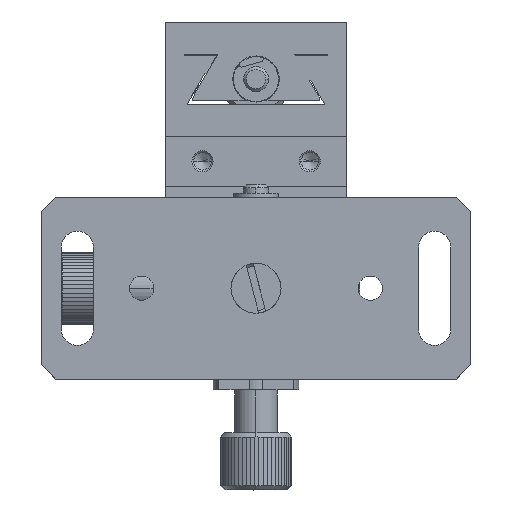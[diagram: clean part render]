
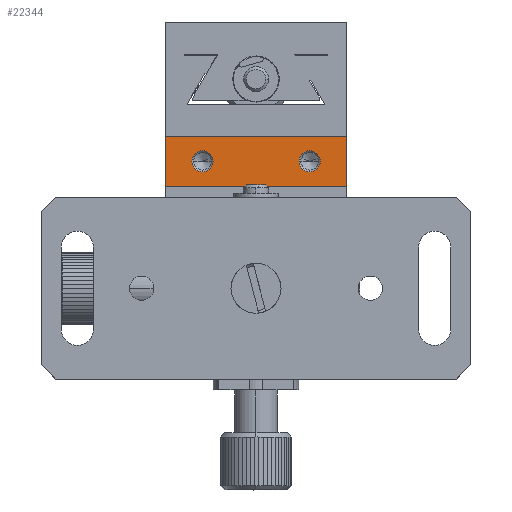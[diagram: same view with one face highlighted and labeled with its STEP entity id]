
A CAD part, top view. The second image highlights one B-rep face of the part: STEP entity #22344.
In plain terms, the highlighted planar face has unit normal (0, 0, 1).
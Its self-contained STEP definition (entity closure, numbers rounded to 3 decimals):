
#4886 = DIRECTION ( 'NONE',  ( 1., 0., 0. ) ) ;
#4888 = DIRECTION ( 'NONE',  ( 0., 0., -1. ) ) ;
#4890 = CARTESIAN_POINT ( 'NONE',  ( -4.01, 50.269, -13. ) ) ;
#4891 = AXIS2_PLACEMENT_3D ( 'NONE', #4890, #4888, #4886 ) ;
#4892 = CIRCLE ( 'NONE', #4891, 1.479 ) ;
#4940 = CARTESIAN_POINT ( 'NONE',  ( 16.19, 53.769, -13. ) ) ;
#5869 = CARTESIAN_POINT ( 'NONE',  ( -9.21, 53.769, -13. ) ) ;
#5873 = DIRECTION ( 'NONE',  ( -1., 0., 0. ) ) ;
#5874 = VECTOR ( 'NONE', #5873, 1000. ) ;
#5875 = CIRCLE ( 'NONE', #6015, 1.479 ) ;
#5876 = CARTESIAN_POINT ( 'NONE',  ( 16.19, 53.769, -13. ) ) ;
#5877 = LINE ( 'NONE', #5876, #5874 ) ;
#5956 = CARTESIAN_POINT ( 'NONE',  ( 9.511, 50.269, -13. ) ) ;
#6001 = CARTESIAN_POINT ( 'NONE',  ( 12.47, 50.269, -13. ) ) ;
#6012 = DIRECTION ( 'NONE',  ( 1., 0., 0. ) ) ;
#6013 = DIRECTION ( 'NONE',  ( 0., 0., -1. ) ) ;
#6014 = CARTESIAN_POINT ( 'NONE',  ( 10.99, 50.269, -13. ) ) ;
#6015 = AXIS2_PLACEMENT_3D ( 'NONE', #6014, #6013, #6012 ) ;
#6136 = DIRECTION ( 'NONE',  ( 1., 0., 0. ) ) ;
#6138 = DIRECTION ( 'NONE',  ( 0., 0., -1. ) ) ;
#6139 = CARTESIAN_POINT ( 'NONE',  ( 10.99, 50.269, -13. ) ) ;
#6140 = AXIS2_PLACEMENT_3D ( 'NONE', #6139, #6138, #6136 ) ;
#6141 = CIRCLE ( 'NONE', #6140, 1.479 ) ;
#6782 = CARTESIAN_POINT ( 'NONE',  ( -2.53, 50.269, -13. ) ) ;
#6994 = DIRECTION ( 'NONE',  ( 1., 0., 0. ) ) ;
#6995 = DIRECTION ( 'NONE',  ( 0., 0., -1. ) ) ;
#6997 = CARTESIAN_POINT ( 'NONE',  ( -4.01, 50.269, -13. ) ) ;
#6998 = AXIS2_PLACEMENT_3D ( 'NONE', #6997, #6995, #6994 ) ;
#7001 = CIRCLE ( 'NONE', #6998, 1.479 ) ;
#7029 = CARTESIAN_POINT ( 'NONE',  ( -5.489, 50.269, -13. ) ) ;
#22156 = VERTEX_POINT ( 'NONE', #44062 ) ;
#22199 = EDGE_LOOP ( 'NONE', ( #22288, #22289 ) ) ;
#22201 = ORIENTED_EDGE ( 'NONE', *, *, #31324, .T. ) ;
#22202 = ORIENTED_EDGE ( 'NONE', *, *, #29277, .T. ) ;
#22211 = EDGE_LOOP ( 'NONE', ( #22315, #22316, #22355, #22215 ) ) ;
#22215 = ORIENTED_EDGE ( 'NONE', *, *, #22216, .F. ) ;
#22216 = EDGE_CURVE ( 'NONE', #22232, #29210, #44131, .T. ) ;
#22232 = VERTEX_POINT ( 'NONE', #44043 ) ;
#22261 = EDGE_CURVE ( 'NONE', #22232, #22156, #43190, .T. ) ;
#22279 = EDGE_CURVE ( 'NONE', #28909, #22156, #43231, .T. ) ;
#22288 = ORIENTED_EDGE ( 'NONE', *, *, #31608, .T. ) ;
#22289 = ORIENTED_EDGE ( 'NONE', *, *, #28894, .T. ) ;
#22315 = ORIENTED_EDGE ( 'NONE', *, *, #22261, .T. ) ;
#22316 = ORIENTED_EDGE ( 'NONE', *, *, #22279, .F. ) ;
#22344 = ADVANCED_FACE ( 'NONE', ( #43174, #43173, #43172 ), #43171, .T. ) ;
#22355 = ORIENTED_EDGE ( 'NONE', *, *, #29206, .T. ) ;
#22357 = EDGE_LOOP ( 'NONE', ( #22201, #22202 ) ) ;
#28894 = EDGE_CURVE ( 'NONE', #31604, #31538, #4892, .T. ) ;
#28909 = VERTEX_POINT ( 'NONE', #4940 ) ;
#29206 = EDGE_CURVE ( 'NONE', #28909, #29210, #5877, .T. ) ;
#29210 = VERTEX_POINT ( 'NONE', #5869 ) ;
#29277 = EDGE_CURVE ( 'NONE', #31321, #31326, #6141, .T. ) ;
#31321 = VERTEX_POINT ( 'NONE', #5956 ) ;
#31324 = EDGE_CURVE ( 'NONE', #31326, #31321, #5875, .T. ) ;
#31326 = VERTEX_POINT ( 'NONE', #6001 ) ;
#31538 = VERTEX_POINT ( 'NONE', #6782 ) ;
#31604 = VERTEX_POINT ( 'NONE', #7029 ) ;
#31608 = EDGE_CURVE ( 'NONE', #31538, #31604, #7001, .T. ) ;
#43167 = DIRECTION ( 'NONE',  ( 0., -1., 0. ) ) ;
#43168 = DIRECTION ( 'NONE',  ( 0., 0., 1. ) ) ;
#43169 = CARTESIAN_POINT ( 'NONE',  ( 16.19, 46.769, -13. ) ) ;
#43170 = AXIS2_PLACEMENT_3D ( 'NONE', #43169, #43168, #43167 ) ;
#43171 = PLANE ( 'NONE',  #43170 ) ;
#43172 = FACE_BOUND ( 'NONE', #22199, .T. ) ;
#43173 = FACE_OUTER_BOUND ( 'NONE', #22211, .T. ) ;
#43174 = FACE_BOUND ( 'NONE', #22357, .T. ) ;
#43190 = LINE ( 'NONE', #43192, #43191 ) ;
#43191 = VECTOR ( 'NONE', #43194, 1000. ) ;
#43192 = CARTESIAN_POINT ( 'NONE',  ( 16.19, 46.769, -13. ) ) ;
#43194 = DIRECTION ( 'NONE',  ( 1., 0., 0. ) ) ;
#43228 = DIRECTION ( 'NONE',  ( 0., -1., 0. ) ) ;
#43229 = VECTOR ( 'NONE', #43228, 1000. ) ;
#43230 = CARTESIAN_POINT ( 'NONE',  ( 16.19, 46.769, -13. ) ) ;
#43231 = LINE ( 'NONE', #43230, #43229 ) ;
#44043 = CARTESIAN_POINT ( 'NONE',  ( -9.21, 46.769, -13. ) ) ;
#44062 = CARTESIAN_POINT ( 'NONE',  ( 16.19, 46.769, -13. ) ) ;
#44128 = DIRECTION ( 'NONE',  ( 0., 1., 0. ) ) ;
#44129 = VECTOR ( 'NONE', #44128, 1000. ) ;
#44130 = CARTESIAN_POINT ( 'NONE',  ( -9.21, 69.769, -13. ) ) ;
#44131 = LINE ( 'NONE', #44130, #44129 ) ;
